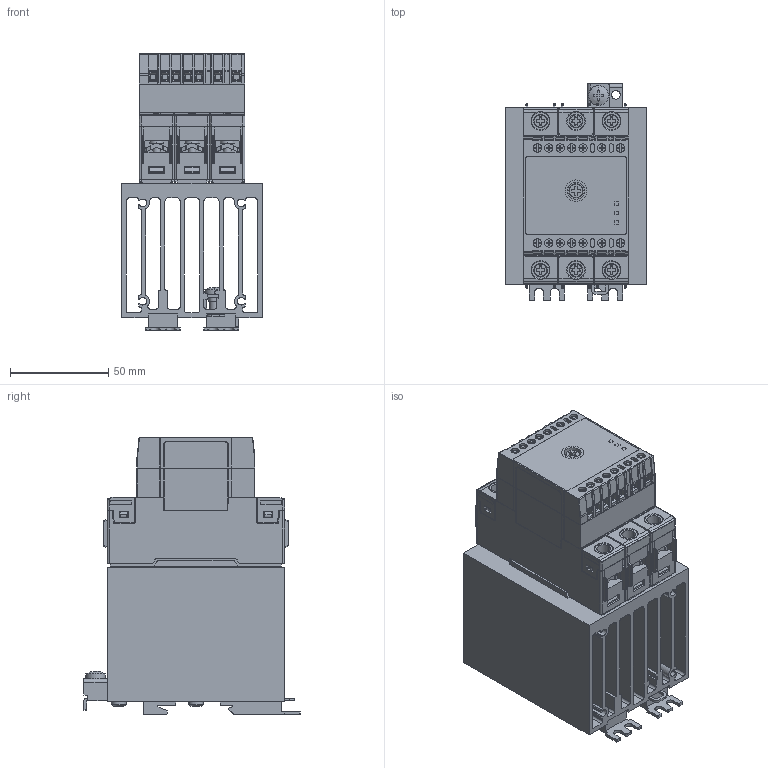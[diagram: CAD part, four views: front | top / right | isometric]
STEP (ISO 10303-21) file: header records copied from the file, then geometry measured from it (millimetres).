
FILE_DESCRIPTION((''),'2;1');
FILE_NAME('CGI1030-01.stp','2014-07-16T09:47:50',(''),(''),'Mechanical Desktop 2009','Mechanical Desktop 2009',', , ');
FILE_SCHEMA(('CONFIG_CONTROL_DESIGN'));
Length unit declared in the file: millimetre
Products named in the file (2): Product; CGI1030-01
Assembly tree (1 placements, depth 2):
  Product
    CGI1030-01
Bounding box: 71.3 x 110 x 140.7 mm (x, y, z)
Volume: 427421.9 mm3; surface area: 161144.9 mm2
Topology: 1 solids, 1 shells, 3399 faces, 9668 edges, 6358 vertices
Faces by surface type: bspline 1579, plane 1111, cylinder 625, cone 38, sphere 32, torus 14
Entity records: 137206 total; most frequent: CARTESIAN_POINT 52646, ORIENTED_EDGE 19232, DIRECTION 15460, EDGE_CURVE 9616, VERTEX_POINT 6360, VECTOR 6124, LINE 6124, AXIS2_PLACEMENT_3D 4668
